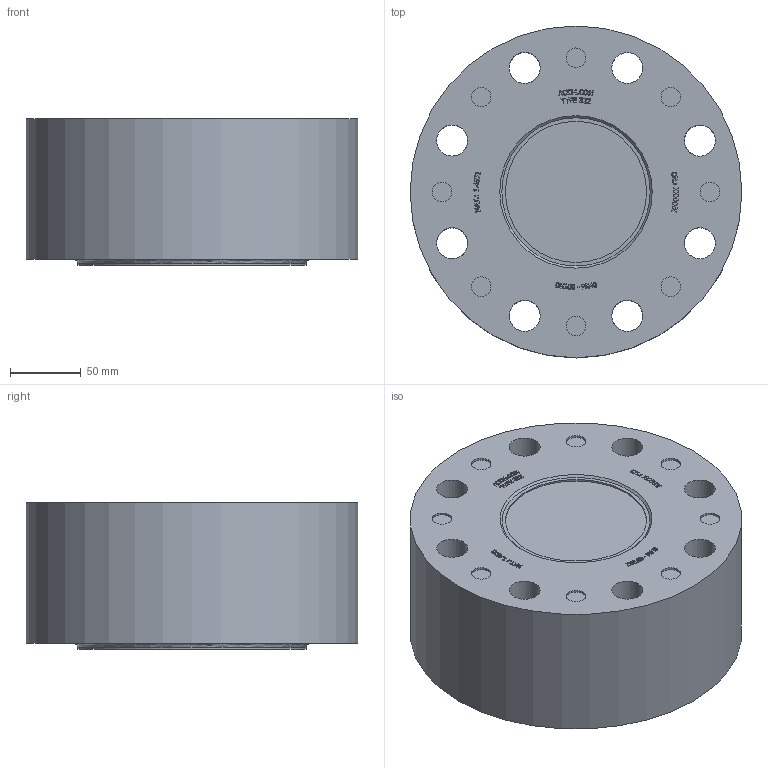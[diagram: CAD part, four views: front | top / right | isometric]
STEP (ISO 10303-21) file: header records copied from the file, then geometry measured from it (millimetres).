
FILE_DESCRIPTION(/* description */ ('ACI TYPE 322 DN 100 PN40'),/* implementation_level */ '2;1');
FILE_NAME(/* name */ 'W:\Konstruktion_ACI\322\ACI-322-100-40.stp',/* time_stamp */ '2020-04-21T10:48:32+02:00',/* author */ ('Götz'),/* organization */ ('ACI Industriearmaturen GmbH info@aci24.com www.aci24.com'),/* preprocessor_version */ 'ST-DEVELOPER v16.1',/* originating_system */ 'Autodesk Inventor 2016',/* authorisation */ 'ACI Industriearmaturen GmbH info@aci24.com www.aci24.com');
FILE_SCHEMA (('CONFIG_CONTROL_DESIGN'));
Length unit declared in the file: centimetre
Products named in the file (1): ACI-322-100-40
Bounding box: 235 x 235 x 104 mm (x, y, z)
Volume: 4047775.2 mm3; surface area: 213705 mm2
Topology: 1 solids, 1 shells, 742 faces, 2001 edges, 1334 vertices
Faces by surface type: plane 522, bspline 190, cylinder 20, torus 9, cone 1
Full cylindrical faces by diameter (mm): 13.835 x8, 22 x8, 100 x2, 162 x1, 235 x1
Entity records: 24493 total; most frequent: CARTESIAN_POINT 6574, ORIENTED_EDGE 3890, DIRECTION 2737, EDGE_CURVE 1945, LINE 1483, VECTOR 1483, VERTEX_POINT 1308, EDGE_LOOP 861
